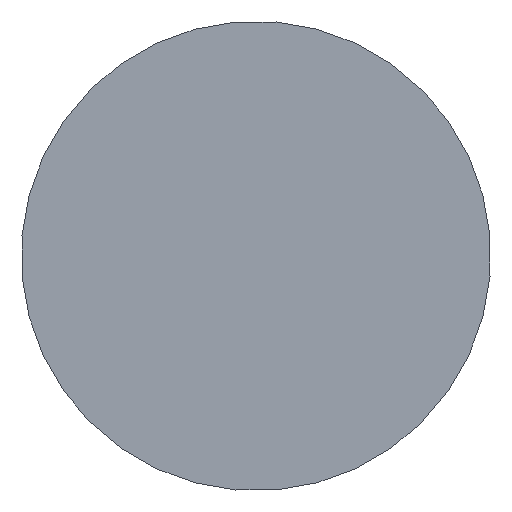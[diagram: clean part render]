
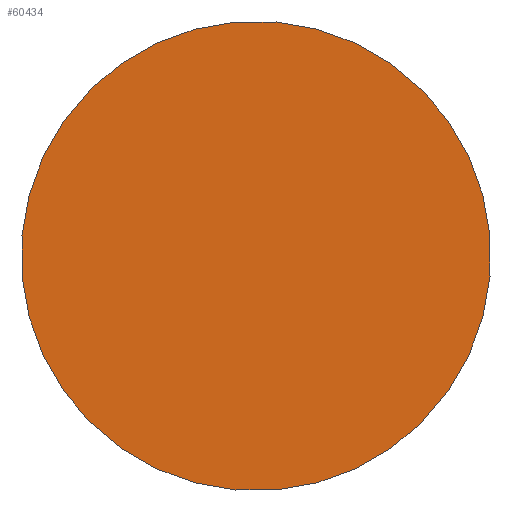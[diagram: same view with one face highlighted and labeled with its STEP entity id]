
A CAD part, left-side view. The second image highlights one B-rep face of the part: STEP entity #60434.
In plain terms, the highlighted planar face has unit normal (-1, 0, 0).
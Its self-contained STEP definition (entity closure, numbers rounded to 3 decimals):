
#60418=CARTESIAN_POINT('',(-5.328,121.72,-3.687));
#60419=DIRECTION('',(-1.0,0.0,0.0));
#60420=DIRECTION('',(0.0,0.088,0.996));
#60421=AXIS2_PLACEMENT_3D('',#60418,#60419,#60420);
#60422=PLANE('',#60421);
#60423=CARTESIAN_POINT('',(-5.328,122.716,-3.775));
#60424=VERTEX_POINT('',#60423);
#60425=CARTESIAN_POINT('',(-5.328,79.882,0.));
#60426=DIRECTION('',(1.,0.,0.));
#60427=DIRECTION('',(0.,0.996,-0.088));
#60428=AXIS2_PLACEMENT_3D('',#60425,#60426,#60427);
#60429=CIRCLE('',#60428,43.);
#60430=EDGE_CURVE('',#60424,#60424,#60429,.T.);
#60431=ORIENTED_EDGE('',*,*,#60430,.F.);
#60432=EDGE_LOOP('',(#60431));
#60433=FACE_OUTER_BOUND('',#60432,.T.);
#60434=ADVANCED_FACE('',(#60433),#60422,.T.);
